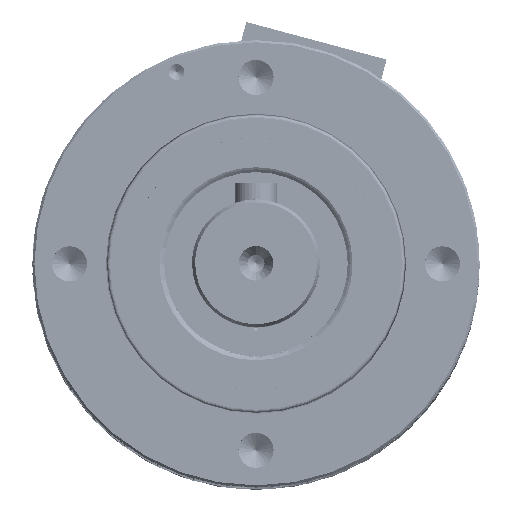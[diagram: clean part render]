
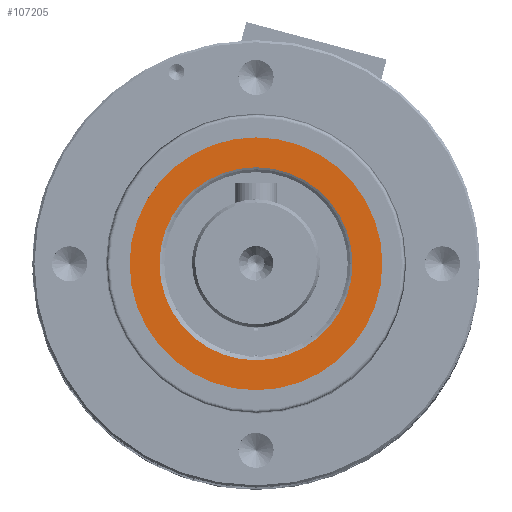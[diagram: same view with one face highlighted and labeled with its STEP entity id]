
A CAD part, top view. The second image highlights one B-rep face of the part: STEP entity #107205.
In plain terms, the highlighted planar face has unit normal (0, 0, 1).
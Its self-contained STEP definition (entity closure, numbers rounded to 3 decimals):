
#34675 = CARTESIAN_POINT ( 'NONE',  ( 16.996, -8.599, 123.885 ) ) ;
#54353 = CIRCLE ( 'NONE', #262033, 11.865 ) ;
#57392 = EDGE_CURVE ( 'NONE', #344442, #351967, #54353, .T. ) ;
#76782 = CARTESIAN_POINT ( 'NONE',  ( 5.131, -8.599, 123.885 ) ) ;
#80232 = EDGE_LOOP ( 'NONE', ( #244247, #367715 ) ) ;
#101393 = ORIENTED_EDGE ( 'NONE', *, *, #139054, .T. ) ;
#101873 = CARTESIAN_POINT ( 'NONE',  ( 5.131, -8.599, 123.885 ) ) ;
#107205 = ADVANCED_FACE ( 'NONE', ( #191341, #220003 ), #283188, .F. ) ;
#132460 = DIRECTION ( 'NONE',  ( 1., 0., 0. ) ) ;
#137050 = CARTESIAN_POINT ( 'NONE',  ( -3.929, -8.599, 123.885 ) ) ;
#139054 = EDGE_CURVE ( 'NONE', #193552, #218765, #353184, .T. ) ;
#143646 = AXIS2_PLACEMENT_3D ( 'NONE', #76782, #279355, #311854 ) ;
#152446 = DIRECTION ( 'NONE',  ( 1., 0., 0. ) ) ;
#159206 = AXIS2_PLACEMENT_3D ( 'NONE', #347377, #261598, #152446 ) ;
#165200 = CIRCLE ( 'NONE', #159206, 11.865 ) ;
#179786 = CIRCLE ( 'NONE', #338461, 9.06 ) ;
#191341 = FACE_BOUND ( 'NONE', #330147, .T. ) ;
#193552 = VERTEX_POINT ( 'NONE', #368308 ) ;
#201282 = DIRECTION ( 'NONE',  ( 1., 0., 0. ) ) ;
#206523 = EDGE_CURVE ( 'NONE', #193552, #218765, #179786, .T. ) ;
#218765 = VERTEX_POINT ( 'NONE', #137050 ) ;
#220003 = FACE_OUTER_BOUND ( 'NONE', #80232, .T. ) ;
#226214 = DIRECTION ( 'NONE',  ( 0., 0., -1. ) ) ;
#244247 = ORIENTED_EDGE ( 'NONE', *, *, #348333, .F. ) ;
#247376 = DIRECTION ( 'NONE',  ( 0., 0., 1. ) ) ;
#249599 = AXIS2_PLACEMENT_3D ( 'NONE', #346502, #226214, #201282 ) ;
#253066 = DIRECTION ( 'NONE',  ( 1., 0., 0. ) ) ;
#261598 = DIRECTION ( 'NONE',  ( 0., 0., -1. ) ) ;
#262033 = AXIS2_PLACEMENT_3D ( 'NONE', #340838, #247376, #253066 ) ;
#262473 = CARTESIAN_POINT ( 'NONE',  ( -6.734, -8.599, 123.885 ) ) ;
#279355 = DIRECTION ( 'NONE',  ( 0., 0., -1. ) ) ;
#283188 = PLANE ( 'NONE',  #143646 ) ;
#311854 = DIRECTION ( 'NONE',  ( 0., 1., 0. ) ) ;
#330147 = EDGE_LOOP ( 'NONE', ( #356112, #101393 ) ) ;
#338461 = AXIS2_PLACEMENT_3D ( 'NONE', #101873, #370988, #132460 ) ;
#340838 = CARTESIAN_POINT ( 'NONE',  ( 5.131, -8.599, 123.885 ) ) ;
#344442 = VERTEX_POINT ( 'NONE', #34675 ) ;
#346502 = CARTESIAN_POINT ( 'NONE',  ( 5.131, -8.599, 123.885 ) ) ;
#347377 = CARTESIAN_POINT ( 'NONE',  ( 5.131, -8.599, 123.885 ) ) ;
#348333 = EDGE_CURVE ( 'NONE', #344442, #351967, #165200, .T. ) ;
#351967 = VERTEX_POINT ( 'NONE', #262473 ) ;
#353184 = CIRCLE ( 'NONE', #249599, 9.06 ) ;
#356112 = ORIENTED_EDGE ( 'NONE', *, *, #206523, .F. ) ;
#367715 = ORIENTED_EDGE ( 'NONE', *, *, #57392, .T. ) ;
#368308 = CARTESIAN_POINT ( 'NONE',  ( 14.191, -8.599, 123.885 ) ) ;
#370988 = DIRECTION ( 'NONE',  ( 0., 0., 1. ) ) ;
